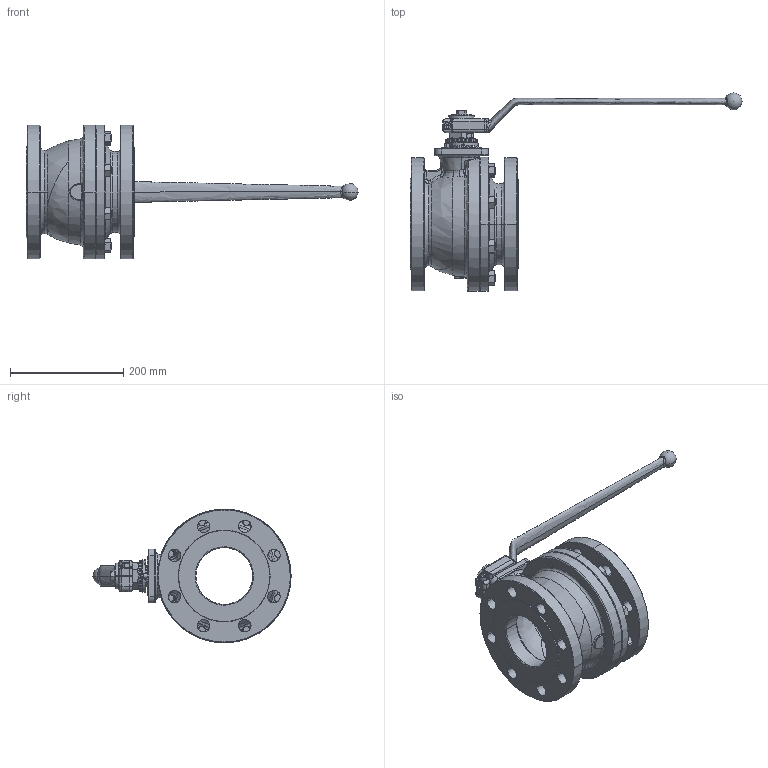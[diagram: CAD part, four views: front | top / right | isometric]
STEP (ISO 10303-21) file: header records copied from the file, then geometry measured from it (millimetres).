
FILE_DESCRIPTION (( 'STEP AP214' ), '1' );
FILE_NAME ('0540100 con maneta.STEP', '2016-10-08T16:14:44', ( '' ), ( '' ), 'SwSTEP 2.0', 'SolidWorks 2016', '' );
FILE_SCHEMA (( 'AUTOMOTIVE_DESIGN' ));
Length unit declared in the file: millimetre
Products named in the file (19): DIN 934 - M14; 5281_46; P100G (38x28x6,5)_Comprimida; SM14492116; JT100FV (38x28x2); 5181_10-1; EPI100Q; DIN 912 - M8 x 25_DIN 912 - M8 x 25; M100CHST; 0540100L; 0540100C; DIN 933 - M10 x 16_DIN 933 - M10 x 16; 5180_17; DIN 6325 - Ø8x20; 200100_41; 00810710; 0540100 con maneta; DIN 2093 - B56; 00810930
Assembly tree (36 placements, depth 2):
  0540100 con maneta
    0540100C
    0540100L
    EPI100Q
    SM14492116  x8
    DIN 934 - M14  x8
    M100CHST
    5180_17
    P100G (38x28x6,5)_Comprimida  x3
    5181_10-1
    JT100FV (38x28x2)
    00810930
    200100_41
    DIN 2093 - B56  x2
    5281_46
    00810710
    DIN 912 - M8 x 25_DIN 912 - M8 x 25
    DIN 933 - M10 x 16_DIN 933 - M10 x 16
    DIN 6325 - Ø8x20  x2
Bounding box: 586 x 349.8 x 236 mm (x, y, z)
Volume: 3675247.5 mm3; surface area: 602873.6 mm2
Topology: 36 solids, 36 shells, 997 faces, 2369 edges, 1440 vertices
Faces by surface type: cylinder 321, cone 259, plane 251, bspline 126, torus 28, sphere 12
Entity records: 47075 total; most frequent: CARTESIAN_POINT 29789, ORIENTED_EDGE 3508, DIRECTION 3196, EDGE_CURVE 1754, AXIS2_PLACEMENT_3D 1313, VERTEX_POINT 1093, EDGE_LOOP 839, FACE_OUTER_BOUND 717
